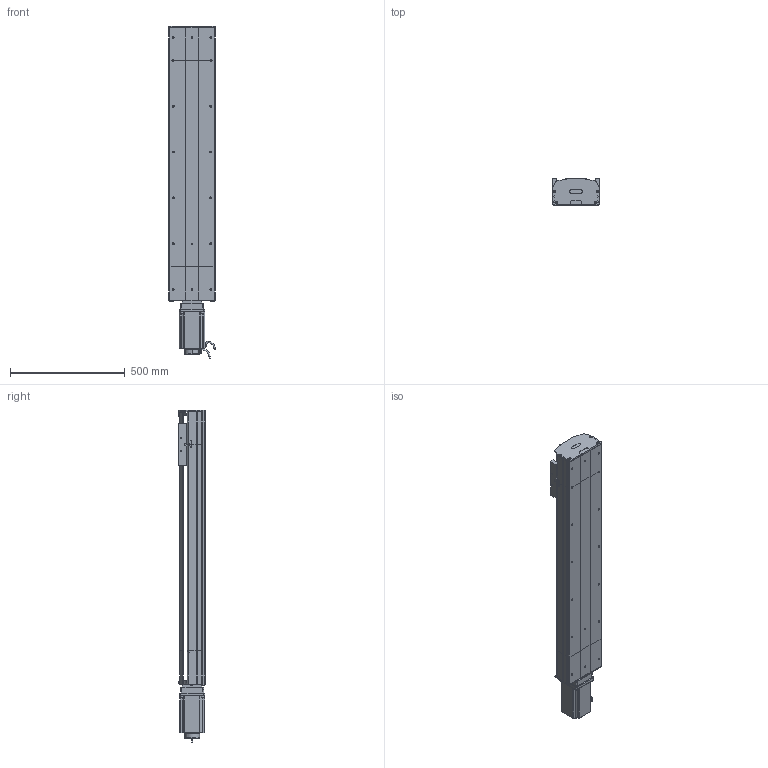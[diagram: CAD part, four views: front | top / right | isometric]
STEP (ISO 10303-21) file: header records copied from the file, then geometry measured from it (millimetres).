
FILE_DESCRIPTION (( 'STEP AP214' ), '1' );
FILE_NAME ('D20 TSH MD S900.STEP', '2010-06-30T08:37:11', ( 'Conseil Régional Haute-Normandie' ), ( 'Conseil Régional Haute-Normandie' ), 'SwSTEP 2.0', 'SolidWorks 2010', '' );
FILE_SCHEMA (( 'AUTOMOTIVE_DESIGN' ));
Length unit declared in the file: millimetre
Products named in the file (33): tete d''axe bas D20; Plaque racord D20_Default; vis M8 L12_Default; clavette; couvercle head l D20_Default; corps 110BLDC170A-630x; Conecteur_Default; Conecteur2_Default; codeur 110BLDC170A-630x; plaque de  bout head MD D20_Default; tail D20 +100_Default; corpl tail D20 +100_Default; head MD D20_Default; corpl head MD D20_Default; Moteur motionking 110BLDC170A-640x; Arbre+rail head D20; avant 110BLDC170A-630x; vis M5 L25_Default; vis M5 L8 90°_Default; 2 vis M5 L12_Default; Arbre+rail tail D20; tete d''axe haut D20; chariot D20S_Default; couvercle tail D20_Default; plaque de  bout tail D20_Default; vis M5 L12_Default; guide D20; Chariot D20; couvercle D20 S900_Default; rail + arbre  D20 S900; corp D20 S900_Default; course D20 L900_Default; D20 TSH MD S900
Assembly tree (56 placements, depth 4):
  D20 TSH MD S900
    chariot D20S_Default
      Chariot D20
      vis M5 L12_Default  x4
      guide D20  x2
    head MD D20_Default
      2 vis M5 L12_Default  x6
      couvercle head l D20_Default
      vis M5 L12_Default  x4
      corpl head MD D20_Default
      vis M8 L12_Default  x4
      Moteur motionking 110BLDC170A-640x
        corps 110BLDC170A-630x
        codeur 110BLDC170A-630x
        Conecteur_Default
        Conecteur2_Default
        avant 110BLDC170A-630x
        clavette
      vis M5 L25_Default  x2
      Arbre+rail head D20
      Plaque racord D20_Default
      plaque de  bout head MD D20_Default
    course D20 L900_Default
      corp D20 S900_Default
      couvercle D20 S900_Default
      rail + arbre  D20 S900
    tail D20 +100_Default
      plaque de  bout tail D20_Default
      2 vis M5 L12_Default  x4
      couvercle tail D20_Default
      vis M5 L8 90°_Default  x2
      tete d''axe bas D20
      Arbre+rail tail D20
      corpl tail D20 +100_Default
      vis M5 L25_Default  x2
      tete d''axe haut D20
Bounding box: 206 x 115.7 x 1448.5 mm (x, y, z)
Volume: 11896632.6 mm3; surface area: 2465507.9 mm2
Topology: 81 solids, 81 shells, 2238 faces, 5640 edges, 3651 vertices
Faces by surface type: plane 1346, cylinder 616, bspline 136, torus 73, cone 67
Entity records: 73817 total; most frequent: CARTESIAN_POINT 24584, ORIENTED_EDGE 8684, DIRECTION 8091, EDGE_CURVE 4342, LINE 2887, VECTOR 2887, VERTEX_POINT 2863, AXIS2_PLACEMENT_3D 2602
